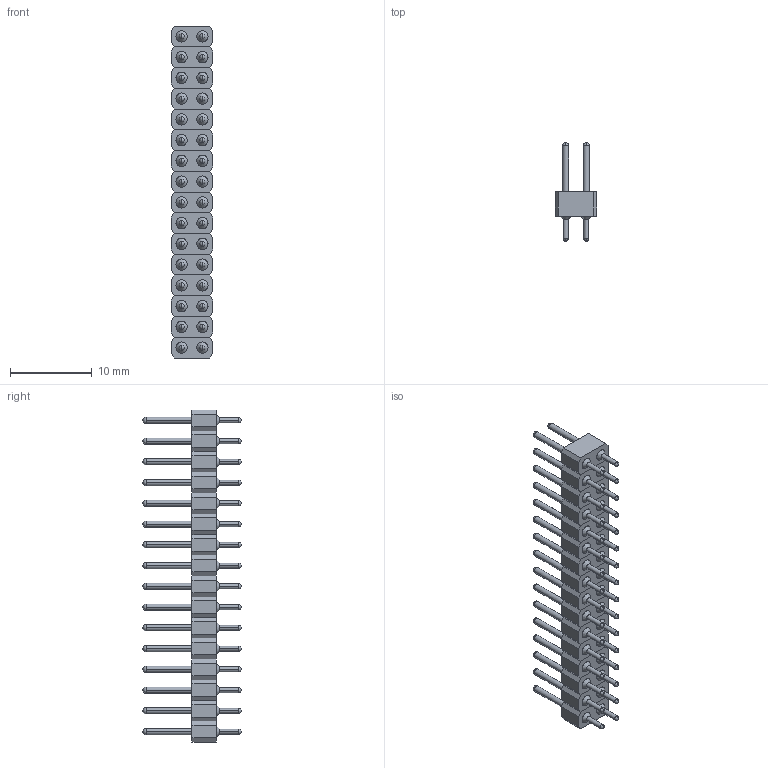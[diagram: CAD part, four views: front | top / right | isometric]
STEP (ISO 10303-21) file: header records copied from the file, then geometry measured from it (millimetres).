
FILE_DESCRIPTION(/* description */ (''),/* implementation_level */ '2;1');
FILE_NAME(/* name */ 'PZ254-2-16-Z-3.0-XX-CC (2.54双排 双头 圆直排针 L12.01 塑高3.0 上针0.75 下针0.6)-HCTL.stp',/* time_stamp */ '2026-10-23T10:59:55+08:00',/* author */ (''),/* organization */ (''),/* preprocessor_version */ 'ST-DEVELOPER v16',/* originating_system */ 'SIEMENS PLM Software NX 10.0',/* authorisation */ '');
FILE_SCHEMA (('AUTOMOTIVE_DESIGN { 1 0 10303 214 3 1 1 1 }'));
Length unit declared in the file: millimetre
Products named in the file (1): PZ254-2-N-Z-3.0-XX-CC (2.54双排 双头 \X2\5706
76F463929488\X0\ L12.01 塑高3.0 上针0.75 \X2\4E0B
9488\X0\0.6)-HCTL
Bounding box: 5.08 x 12.01 x 40.64 mm (x, y, z)
Volume: 716.3 mm3; surface area: 2672.4 mm2
Topology: 48 solids, 48 shells, 960 faces, 2176 edges, 1344 vertices
Faces by surface type: cylinder 416, plane 320, sphere 128, cone 96
Full cylindrical faces by diameter (mm): 1.39 x32
Entity records: 26503 total; most frequent: CARTESIAN_POINT 5249, DIRECTION 4610, ORIENTED_EDGE 3904, AXIS2_PLACEMENT_3D 1953, EDGE_CURVE 1952, VERTEX_POINT 1312, EDGE_LOOP 1248, CIRCLE 992
